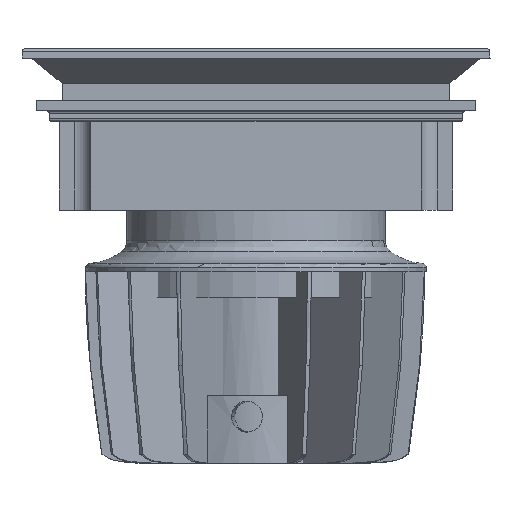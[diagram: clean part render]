
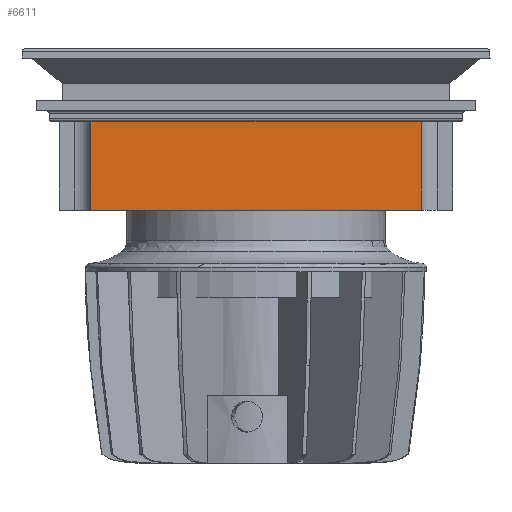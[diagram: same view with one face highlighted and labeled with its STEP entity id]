
A CAD part, front view. The second image highlights one B-rep face of the part: STEP entity #6611.
In plain terms, the highlighted planar face has unit normal (0, -1, 0) as drawn and (0, 1, 0) by its records, which use the part's own axes.
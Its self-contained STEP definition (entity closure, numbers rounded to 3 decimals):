
#833=FACE_OUTER_BOUND('',#1240,.T.);
#1240=EDGE_LOOP('',(#5709,#5710,#5711,#5712,#5713,#5714,#5715,#5716));
#1656=LINE('',#13399,#2155);
#1658=LINE('',#13404,#2157);
#1682=LINE('',#13466,#2181);
#1685=LINE('',#13475,#2184);
#1691=LINE('',#13492,#2190);
#1692=LINE('',#13495,#2191);
#1693=LINE('',#13497,#2192);
#1694=LINE('',#13498,#2193);
#2155=VECTOR('',#8606,304.8);
#2157=VECTOR('',#8610,304.8);
#2181=VECTOR('',#8664,304.8);
#2184=VECTOR('',#8673,304.8);
#2190=VECTOR('',#8689,304.8);
#2191=VECTOR('',#8694,304.8);
#2192=VECTOR('',#8695,304.8);
#2193=VECTOR('',#8696,304.8);
#3047=VERTEX_POINT('',#13396);
#3048=VERTEX_POINT('',#13398);
#3049=VERTEX_POINT('',#13402);
#3050=VERTEX_POINT('',#13403);
#3073=VERTEX_POINT('',#13465);
#3076=VERTEX_POINT('',#13473);
#3082=VERTEX_POINT('',#13491);
#3083=VERTEX_POINT('',#13496);
#3939=EDGE_CURVE('',#3048,#3047,#1656,.T.);
#3941=EDGE_CURVE('',#3049,#3050,#1658,.T.);
#3971=EDGE_CURVE('',#3073,#3048,#1682,.T.);
#3976=EDGE_CURVE('',#3050,#3076,#1685,.T.);
#3984=EDGE_CURVE('',#3082,#3073,#1691,.T.);
#3986=EDGE_CURVE('',#3049,#3047,#1692,.T.);
#3987=EDGE_CURVE('',#3083,#3076,#1693,.T.);
#3988=EDGE_CURVE('',#3082,#3083,#1694,.T.);
#5709=ORIENTED_EDGE('',*,*,#3984,.T.);
#5710=ORIENTED_EDGE('',*,*,#3971,.T.);
#5711=ORIENTED_EDGE('',*,*,#3939,.T.);
#5712=ORIENTED_EDGE('',*,*,#3986,.F.);
#5713=ORIENTED_EDGE('',*,*,#3941,.T.);
#5714=ORIENTED_EDGE('',*,*,#3976,.T.);
#5715=ORIENTED_EDGE('',*,*,#3987,.F.);
#5716=ORIENTED_EDGE('',*,*,#3988,.F.);
#6231=PLANE('',#7210);
#6611=ADVANCED_FACE('',(#833),#6231,.F.);
#7210=AXIS2_PLACEMENT_3D('',#13494,#8692,#8693);
#8606=DIRECTION('',(0.,0.,-1.));
#8610=DIRECTION('',(0.,0.,1.));
#8664=DIRECTION('',(-1.,0.,0.));
#8673=DIRECTION('',(-1.,0.,0.));
#8689=DIRECTION('',(0.,0.,-1.));
#8692=DIRECTION('center_axis',(0.,-1.,0.));
#8693=DIRECTION('ref_axis',(0.,0.,-1.));
#8694=DIRECTION('',(1.,0.,0.));
#8695=DIRECTION('',(0.,0.,-1.));
#8696=DIRECTION('',(-1.,0.,0.));
#13396=CARTESIAN_POINT('',(31.951,38.,-19.511));
#13398=CARTESIAN_POINT('',(31.951,38.,-2.313));
#13399=CARTESIAN_POINT('',(31.951,38.,-2.313));
#13402=CARTESIAN_POINT('',(-31.951,38.,-19.511));
#13403=CARTESIAN_POINT('',(-31.951,38.,-2.313));
#13404=CARTESIAN_POINT('',(-31.951,38.,-19.511));
#13465=CARTESIAN_POINT('',(35.076,38.,-2.313));
#13466=CARTESIAN_POINT('',(35.076,38.,-2.313));
#13473=CARTESIAN_POINT('',(-35.076,38.,-2.313));
#13475=CARTESIAN_POINT('',(-31.951,38.,-2.313));
#13491=CARTESIAN_POINT('',(35.076,38.,-0.312));
#13492=CARTESIAN_POINT('',(35.076,38.,-0.312));
#13494=CARTESIAN_POINT('Origin',(-35.076,38.,-0.312));
#13495=CARTESIAN_POINT('',(-31.951,38.,-19.511));
#13496=CARTESIAN_POINT('',(-35.076,38.,-0.312));
#13497=CARTESIAN_POINT('',(-35.076,38.,-0.312));
#13498=CARTESIAN_POINT('',(35.076,38.,-0.312));
